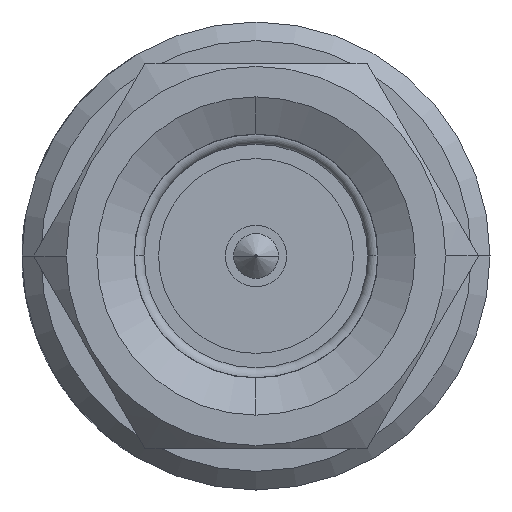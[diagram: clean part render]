
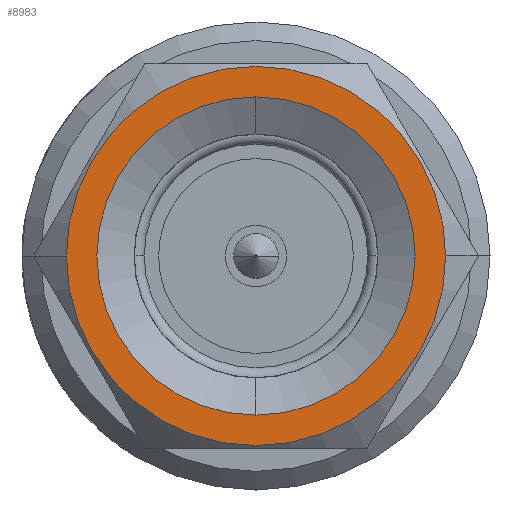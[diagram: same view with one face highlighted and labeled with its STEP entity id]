
A CAD part, front view. The second image highlights one B-rep face of the part: STEP entity #8983.
In plain terms, the highlighted planar face has unit normal (0, -1, 0).
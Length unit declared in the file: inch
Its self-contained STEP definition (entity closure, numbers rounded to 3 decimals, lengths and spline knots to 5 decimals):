
#2399=CARTESIAN_POINT('',(0.,-0.709,0.));
#2400=DIRECTION('',(0.,-1.,0.));
#2401=DIRECTION('',(-1.,0.,0.));
#2402=AXIS2_PLACEMENT_3D('',#2399,#2400,#2401);
#2404=CARTESIAN_POINT('',(0.,-0.709,0.));
#2405=DIRECTION('',(0.,-1.,0.));
#2406=DIRECTION('',(1.,0.,0.));
#2407=AXIS2_PLACEMENT_3D('',#2404,#2405,#2406);
#2409=CARTESIAN_POINT('',(0.,-0.709,0.));
#2410=DIRECTION('',(0.,1.,0.));
#2411=DIRECTION('',(0.,0.,-1.));
#2412=AXIS2_PLACEMENT_3D('',#2409,#2410,#2411);
#2414=CARTESIAN_POINT('',(0.,-0.709,0.));
#2415=DIRECTION('',(0.,1.,0.));
#2416=DIRECTION('',(0.,0.,1.));
#2417=AXIS2_PLACEMENT_3D('',#2414,#2415,#2416);
#6567=CARTESIAN_POINT('',(0.,-0.709,
0.12817));
#6568=CARTESIAN_POINT('',(0.,-0.709,
-0.12817));
#6569=VERTEX_POINT('',#6567);
#6570=VERTEX_POINT('',#6568);
#6571=CARTESIAN_POINT('',(-0.15275,-0.709,0.));
#6572=CARTESIAN_POINT('',(0.15275,-0.709,0.));
#6573=VERTEX_POINT('',#6571);
#6574=VERTEX_POINT('',#6572);
#8968=CARTESIAN_POINT('',(0.,-0.709,0.));
#8969=DIRECTION('',(0.,1.,0.));
#8970=DIRECTION('',(-1.,0.,0.));
#8971=AXIS2_PLACEMENT_3D('',#8968,#8969,#8970);
#8972=PLANE('',#8971);
#8973=ORIENTED_EDGE('',*,*,#8948,.F.);
#8974=ORIENTED_EDGE('',*,*,#8962,.F.);
#8975=EDGE_LOOP('',(#8973,#8974));
#8976=FACE_OUTER_BOUND('',#8975,.F.);
#8978=ORIENTED_EDGE('',*,*,#8977,.F.);
#8980=ORIENTED_EDGE('',*,*,#8979,.F.);
#8981=EDGE_LOOP('',(#8978,#8980));
#8982=FACE_BOUND('',#8981,.F.);
#8983=ADVANCED_FACE('',(#8976,#8982),#8972,.F.);
#2403=CIRCLE('',#2402,0.15275);
#2408=CIRCLE('',#2407,0.15275);
#2413=CIRCLE('',#2412,0.12817);
#2418=CIRCLE('',#2417,0.12817);
#8948=EDGE_CURVE('',#6573,#6574,#2403,.T.);
#8962=EDGE_CURVE('',#6574,#6573,#2408,.T.);
#8977=EDGE_CURVE('',#6570,#6569,#2413,.T.);
#8979=EDGE_CURVE('',#6569,#6570,#2418,.T.);
